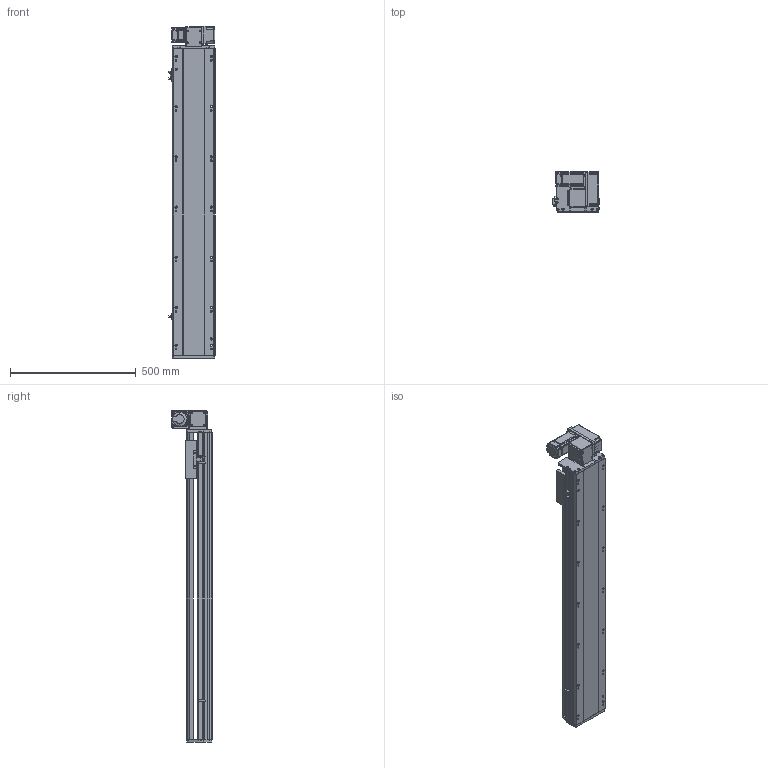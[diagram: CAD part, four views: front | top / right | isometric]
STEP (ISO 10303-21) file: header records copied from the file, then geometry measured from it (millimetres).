
FILE_DESCRIPTION (( 'STEP AP214' ), '1' );
FILE_NAME ('RTB17S-XX-950-RW-M40-C4.STEP', '2025-12-11T08:53:24', ( '' ), ( '' ), 'SwSTEP 2.0', 'SolidWorks 2018', '' );
FILE_SCHEMA (( 'AUTOMOTIVE_DESIGN' ));
Length unit declared in the file: millimetre
Products named in the file (14): RTB14-L-018P^RTB17S-RW-々湍釱蚾饜-400W_RTB17S-XX-XX-RW-M40-C4; RTB17S-L-001耜醱啣^RTB17S-XX-XX-RW-M40-C4; RTH13-BL-012覜茼え俋离^RTB17S-XX-XX-RW-M40-C4; RTB14-L-017P^RTB17S-RW-々湍釱蚾饜-400W_RTB17S-XX-XX-RW-M40-C4; RTB14-L-005P--轴承塑胶压盖^RTB17S-RW-皮带座装配-400W_RTB17S-XX-XX-RW-M40-C4; RTB17S-RW-々湍釱蚾饜-400W^RTB17S-XX-XX-RW-M40-C4; RTB17S-L-007奻裔^RTB17S-XX-XX-RW-M40-C4; RTB17-R-011菁釱^RTB17S-XX-XX-RW-M40-C4; RTB17S-L-004佪裝蹟譫蟀諉釱^RTB17S-XX-XX-RW-M40-C4; RMP17S-L-014-T20--々湍釱^RTB17S-RW-々湍釱蚾饜-400W_RTB17S-XX-XX-RW-M40-C4; RTB14-L-008-M20--萇儂啣^RTB17S-RW-々湍釱蚾饜-400W_RTB17S-XX-XX-RW-M40-C4; 400W侜督萇儂^RTB17S-XX-XX-RW-M40-C4; OMRON EE-SX672 传感器^RTB17S-XX-XX-RW-M40-C4; RTB17S-XX-950-RW-M40-C4
Assembly tree (16 placements, depth 3):
  RTB17S-XX-950-RW-M40-C4
    RTB17-R-011菁釱^RTB17S-XX-XX-RW-M40-C4
    RTB17S-L-007奻裔^RTB17S-XX-XX-RW-M40-C4
    OMRON EE-SX672 传感器^RTB17S-XX-XX-RW-M40-C4  x3
    RTB17S-L-001耜醱啣^RTB17S-XX-XX-RW-M40-C4
    400W侜督萇儂^RTB17S-XX-XX-RW-M40-C4
    RTB17S-L-004佪裝蹟譫蟀諉釱^RTB17S-XX-XX-RW-M40-C4
    RTH13-BL-012覜茼え俋离^RTB17S-XX-XX-RW-M40-C4
    RTB17S-RW-々湍釱蚾饜-400W^RTB17S-XX-XX-RW-M40-C4
      RMP17S-L-014-T20--々湍釱^RTB17S-RW-々湍釱蚾饜-400W_RTB17S-XX-XX-RW-M40-C4
      RTB14-L-005P--轴承塑胶压盖^RTB17S-RW-皮带座装配-400W_RTB17S-XX-XX-RW-M40-C4
      RTB14-L-008-M20--萇儂啣^RTB17S-RW-々湍釱蚾饜-400W_RTB17S-XX-XX-RW-M40-C4
      RTB14-L-017P^RTB17S-RW-々湍釱蚾饜-400W_RTB17S-XX-XX-RW-M40-C4  x2
      RTB14-L-018P^RTB17S-RW-々湍釱蚾饜-400W_RTB17S-XX-XX-RW-M40-C4
Bounding box: 183.5 x 160.5 x 1322.5 mm (x, y, z)
Volume: 11966621.3 mm3; surface area: 1453600.3 mm2
Topology: 15 solids, 15 shells, 2205 faces, 6087 edges, 3969 vertices
Faces by surface type: plane 1068, cylinder 689, bspline 301, cone 139, torus 8
Entity records: 62633 total; most frequent: CARTESIAN_POINT 17492, ORIENTED_EDGE 9018, DIRECTION 8396, EDGE_CURVE 4509, VERTEX_POINT 2957, AXIS2_PLACEMENT_3D 2887, LINE 2622, VECTOR 2622
